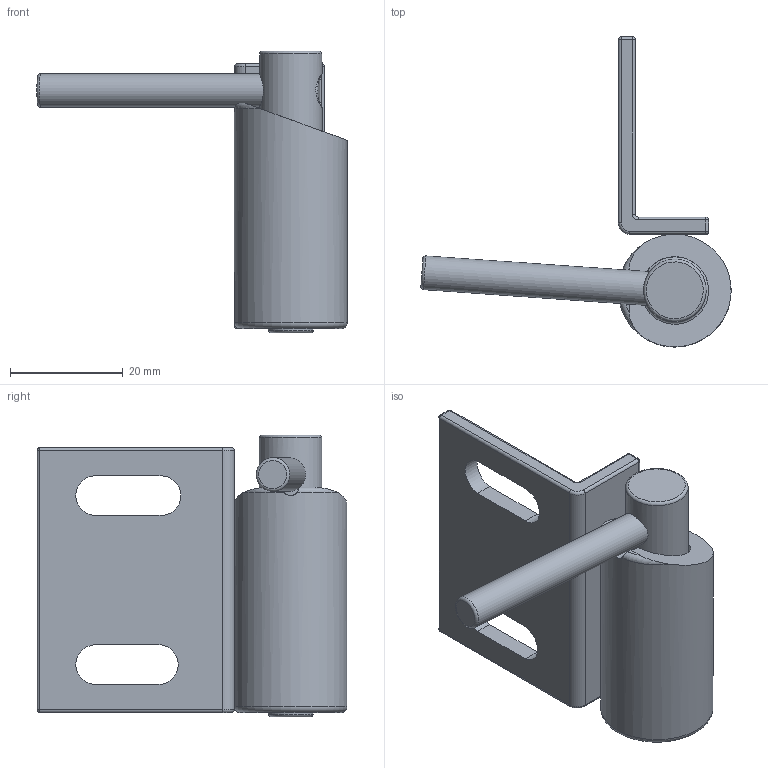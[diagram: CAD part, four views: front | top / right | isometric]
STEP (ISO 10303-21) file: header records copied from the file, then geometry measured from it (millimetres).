
FILE_DESCRIPTION(/* description */ (''),/* implementation_level */ '2;1');
FILE_NAME(/* name */ 'CRI_T90_20X40.stp',/* time_stamp */ '2018-11-12T22:03:21+01:00',/* author */ (''),/* organization */ (''),/* preprocessor_version */ 'ST-DEVELOPER v16',/* originating_system */ 'SIEMENS PLM Software NX 10.0',/* authorisation */ '');
FILE_SCHEMA (('CONFIG_CONTROL_DESIGN'));
Length unit declared in the file: millimetre
Products named in the file (5): CILINDRO_TAGLIATO_20X40; PERNO; STAFFA; MANIGLIA; CRI_T90_20X40
Assembly tree (4 placements, depth 2):
  CRI_T90_20X40
    MANIGLIA
    STAFFA
    PERNO
    CILINDRO_TAGLIATO_20X40
Bounding box: 55.06 x 55 x 50 mm (x, y, z)
Volume: 18314.6 mm3; surface area: 12446.9 mm2
Topology: 4 solids, 4 shells, 76 faces, 167 edges, 93 vertices
Faces by surface type: cylinder 31, plane 23, torus 14, sphere 8
Full cylindrical faces by diameter (mm): 6 x2, 8 x1, 11.1 x1, 12 x1, 14.9 x1, 16 x1, 20 x1
Entity records: 2627 total; most frequent: CARTESIAN_POINT 510, DIRECTION 370, ORIENTED_EDGE 280, AXIS2_PLACEMENT_3D 157, EDGE_CURVE 140, EDGE_LOOP 102, VERTEX_POINT 90, ADVANCED_FACE 76
